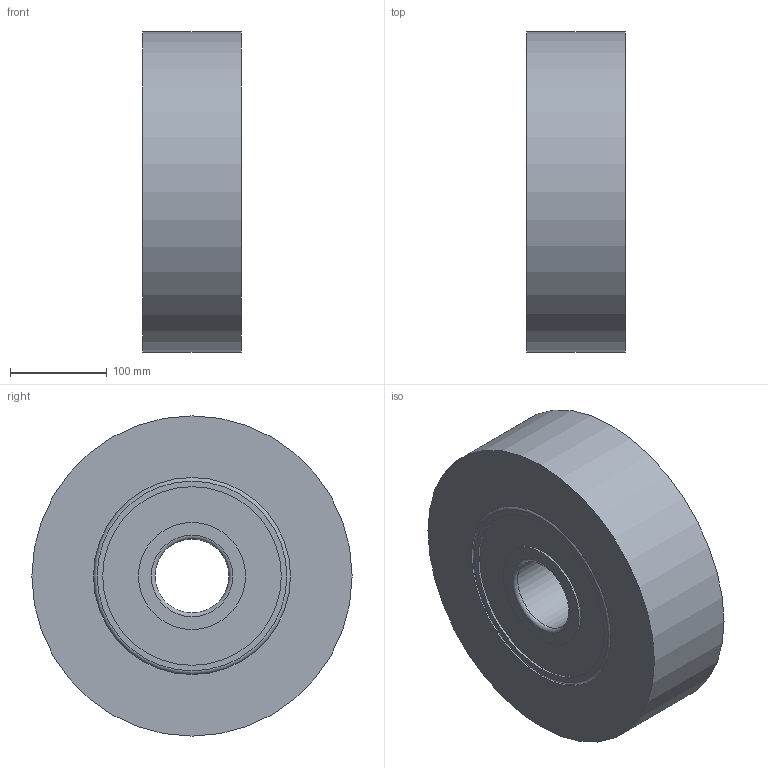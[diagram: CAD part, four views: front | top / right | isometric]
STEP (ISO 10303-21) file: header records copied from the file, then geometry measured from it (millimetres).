
FILE_DESCRIPTION((''),'1');
FILE_NAME('H:/図庫/国内ﾕﾆｯﾄ/ｶﾀﾛｸﾞ/ｺﾞﾑ直巻/ホームページ用ＣＡＤ図面/update用/3', '2017-07-14T08:49:54',(''), (''), 'KCM Version 1.1.1442.0', 'Kubotek KeyCreator', '');
FILE_SCHEMA(('AUTOMOTIVE_DESIGN'));
Length unit declared in the file: inch
Bounding box: 101.6 x 330.2 x 330.2 mm (x, y, z)
Surface area: 303423.8 mm2 (no closed solid volume)
Topology: 0 solids, 20 shells, 20 faces, 68 edges, 56 vertices
Faces by surface type: cylinder 8, plane 8, torus 4
Full cylindrical faces by diameter (mm): 76.2 x1, 110.49 x2, 184.15 x2, 203.2 x2, 330.2 x1
Entity records: 790 total; most frequent: DIRECTION 154, CARTESIAN_POINT 137, ORIENTED_EDGE 80, AXIS2_PLACEMENT_3D 73, EDGE_CURVE 68, VERTEX_POINT 56, CIRCLE 52, EDGE_LOOP 28
